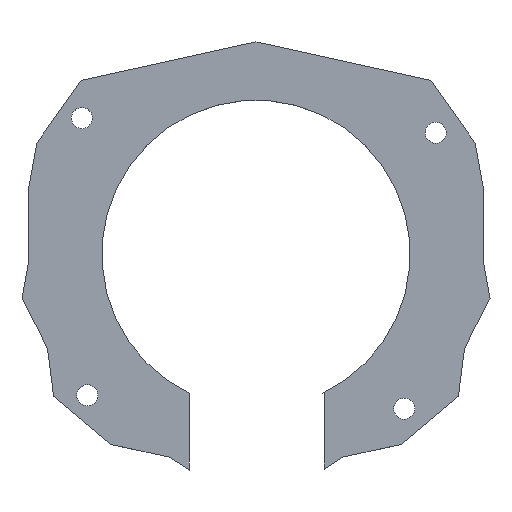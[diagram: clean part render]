
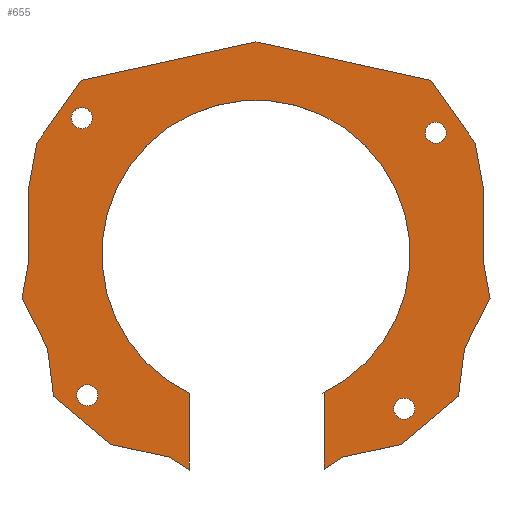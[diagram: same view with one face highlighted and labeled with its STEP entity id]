
A CAD part, top view. The second image highlights one B-rep face of the part: STEP entity #655.
In plain terms, the highlighted planar face has unit normal (0, 0, 1).
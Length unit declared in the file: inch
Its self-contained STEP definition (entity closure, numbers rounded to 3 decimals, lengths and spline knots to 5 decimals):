
#15=FACE_BOUND('',#104,.T.);
#16=FACE_BOUND('',#105,.T.);
#17=FACE_BOUND('',#106,.T.);
#18=FACE_BOUND('',#107,.T.);
#31=CIRCLE('',#678,0.91418);
#33=CIRCLE('',#682,0.0625);
#35=CIRCLE('',#685,0.0625);
#37=CIRCLE('',#688,0.0625);
#39=CIRCLE('',#691,0.0625);
#71=FACE_OUTER_BOUND('',#103,.T.);
#103=EDGE_LOOP('',(#544,#545,#546,#547,#548,#549,#550,#551,#552,#553,#554,
#555,#556,#557,#558,#559,#560,#561,#562,#563,#564,#565,#566,#567));
#104=EDGE_LOOP('',(#568));
#105=EDGE_LOOP('',(#569));
#106=EDGE_LOOP('',(#570));
#107=EDGE_LOOP('',(#571));
#115=LINE('',#891,#193);
#119=LINE('',#900,#197);
#127=LINE('',#915,#205);
#134=LINE('',#954,#212);
#137=LINE('',#960,#215);
#140=LINE('',#966,#218);
#143=LINE('',#972,#221);
#146=LINE('',#978,#224);
#149=LINE('',#984,#227);
#152=LINE('',#990,#230);
#155=LINE('',#996,#233);
#158=LINE('',#1002,#236);
#161=LINE('',#1006,#239);
#162=LINE('',#1009,#240);
#166=LINE('',#1017,#244);
#169=LINE('',#1023,#247);
#172=LINE('',#1029,#250);
#175=LINE('',#1035,#253);
#178=LINE('',#1041,#256);
#181=LINE('',#1047,#259);
#184=LINE('',#1053,#262);
#187=LINE('',#1059,#265);
#190=LINE('',#1063,#268);
#193=VECTOR('',#721,0.3937);
#197=VECTOR('',#727,0.3937);
#205=VECTOR('',#737,0.3937);
#212=VECTOR('',#784,0.3937);
#215=VECTOR('',#789,0.3937);
#218=VECTOR('',#794,0.3937);
#221=VECTOR('',#799,0.3937);
#224=VECTOR('',#804,0.3937);
#227=VECTOR('',#809,0.3937);
#230=VECTOR('',#814,0.3937);
#233=VECTOR('',#819,0.3937);
#236=VECTOR('',#824,0.3937);
#239=VECTOR('',#829,0.3937);
#240=VECTOR('',#832,0.3937);
#244=VECTOR('',#838,0.3937);
#247=VECTOR('',#843,0.3937);
#250=VECTOR('',#848,0.3937);
#253=VECTOR('',#853,0.3937);
#256=VECTOR('',#858,0.3937);
#259=VECTOR('',#863,0.3937);
#262=VECTOR('',#868,0.3937);
#265=VECTOR('',#873,0.3937);
#268=VECTOR('',#878,0.3937);
#271=VERTEX_POINT('',#888);
#272=VERTEX_POINT('',#890);
#275=VERTEX_POINT('',#897);
#276=VERTEX_POINT('',#899);
#282=VERTEX_POINT('',#913);
#283=VERTEX_POINT('',#924);
#285=VERTEX_POINT('',#930);
#287=VERTEX_POINT('',#936);
#289=VERTEX_POINT('',#942);
#293=VERTEX_POINT('',#951);
#294=VERTEX_POINT('',#953);
#296=VERTEX_POINT('',#959);
#298=VERTEX_POINT('',#965);
#300=VERTEX_POINT('',#971);
#302=VERTEX_POINT('',#977);
#304=VERTEX_POINT('',#983);
#306=VERTEX_POINT('',#989);
#308=VERTEX_POINT('',#995);
#310=VERTEX_POINT('',#1001);
#311=VERTEX_POINT('',#1008);
#314=VERTEX_POINT('',#1016);
#316=VERTEX_POINT('',#1022);
#318=VERTEX_POINT('',#1028);
#320=VERTEX_POINT('',#1034);
#322=VERTEX_POINT('',#1040);
#324=VERTEX_POINT('',#1046);
#326=VERTEX_POINT('',#1052);
#328=VERTEX_POINT('',#1058);
#331=EDGE_CURVE('',#272,#271,#115,.T.);
#335=EDGE_CURVE('',#276,#275,#119,.T.);
#343=EDGE_CURVE('',#271,#282,#127,.T.);
#346=EDGE_CURVE('',#275,#272,#31,.T.);
#348=EDGE_CURVE('',#283,#283,#33,.T.);
#351=EDGE_CURVE('',#285,#285,#35,.T.);
#354=EDGE_CURVE('',#287,#287,#37,.T.);
#357=EDGE_CURVE('',#289,#289,#39,.T.);
#362=EDGE_CURVE('',#294,#293,#134,.T.);
#365=EDGE_CURVE('',#296,#294,#137,.T.);
#368=EDGE_CURVE('',#298,#296,#140,.T.);
#371=EDGE_CURVE('',#300,#298,#143,.T.);
#374=EDGE_CURVE('',#302,#300,#146,.T.);
#377=EDGE_CURVE('',#304,#302,#149,.T.);
#380=EDGE_CURVE('',#306,#304,#152,.T.);
#383=EDGE_CURVE('',#308,#306,#155,.T.);
#386=EDGE_CURVE('',#310,#308,#158,.T.);
#389=EDGE_CURVE('',#282,#310,#161,.T.);
#390=EDGE_CURVE('',#311,#276,#162,.T.);
#394=EDGE_CURVE('',#314,#311,#166,.T.);
#397=EDGE_CURVE('',#316,#314,#169,.T.);
#400=EDGE_CURVE('',#318,#316,#172,.T.);
#403=EDGE_CURVE('',#320,#318,#175,.T.);
#406=EDGE_CURVE('',#322,#320,#178,.T.);
#409=EDGE_CURVE('',#324,#322,#181,.T.);
#412=EDGE_CURVE('',#326,#324,#184,.T.);
#415=EDGE_CURVE('',#328,#326,#187,.T.);
#418=EDGE_CURVE('',#293,#328,#190,.T.);
#544=ORIENTED_EDGE('',*,*,#343,.T.);
#545=ORIENTED_EDGE('',*,*,#389,.T.);
#546=ORIENTED_EDGE('',*,*,#386,.T.);
#547=ORIENTED_EDGE('',*,*,#383,.T.);
#548=ORIENTED_EDGE('',*,*,#380,.T.);
#549=ORIENTED_EDGE('',*,*,#377,.T.);
#550=ORIENTED_EDGE('',*,*,#374,.T.);
#551=ORIENTED_EDGE('',*,*,#371,.T.);
#552=ORIENTED_EDGE('',*,*,#368,.T.);
#553=ORIENTED_EDGE('',*,*,#365,.T.);
#554=ORIENTED_EDGE('',*,*,#362,.T.);
#555=ORIENTED_EDGE('',*,*,#418,.T.);
#556=ORIENTED_EDGE('',*,*,#415,.T.);
#557=ORIENTED_EDGE('',*,*,#412,.T.);
#558=ORIENTED_EDGE('',*,*,#409,.T.);
#559=ORIENTED_EDGE('',*,*,#406,.T.);
#560=ORIENTED_EDGE('',*,*,#403,.T.);
#561=ORIENTED_EDGE('',*,*,#400,.T.);
#562=ORIENTED_EDGE('',*,*,#397,.T.);
#563=ORIENTED_EDGE('',*,*,#394,.T.);
#564=ORIENTED_EDGE('',*,*,#390,.T.);
#565=ORIENTED_EDGE('',*,*,#335,.T.);
#566=ORIENTED_EDGE('',*,*,#346,.T.);
#567=ORIENTED_EDGE('',*,*,#331,.T.);
#568=ORIENTED_EDGE('',*,*,#357,.T.);
#569=ORIENTED_EDGE('',*,*,#354,.T.);
#570=ORIENTED_EDGE('',*,*,#351,.T.);
#571=ORIENTED_EDGE('',*,*,#348,.T.);
#623=PLANE('',#713);
#655=ADVANCED_FACE('',(#71,#15,#16,#17,#18),#623,.T.);
#678=AXIS2_PLACEMENT_3D('',#920,#746,#747);
#682=AXIS2_PLACEMENT_3D('',#925,#754,#755);
#685=AXIS2_PLACEMENT_3D('',#931,#761,#762);
#688=AXIS2_PLACEMENT_3D('',#937,#768,#769);
#691=AXIS2_PLACEMENT_3D('',#943,#775,#776);
#713=AXIS2_PLACEMENT_3D('',#1064,#879,#880);
#721=DIRECTION('',(1.,0.,0.));
#727=DIRECTION('',(0.,1.,0.));
#737=DIRECTION('',(0.,-1.,0.));
#746=DIRECTION('center_axis',(0.,0.,-1.));
#747=DIRECTION('ref_axis',(-1.,0.,0.));
#754=DIRECTION('center_axis',(0.,0.,-1.));
#755=DIRECTION('ref_axis',(-1.,0.,0.));
#761=DIRECTION('center_axis',(0.,0.,-1.));
#762=DIRECTION('ref_axis',(-1.,0.,0.));
#768=DIRECTION('center_axis',(0.,0.,-1.));
#769=DIRECTION('ref_axis',(-1.,0.,0.));
#775=DIRECTION('center_axis',(0.,0.,-1.));
#776=DIRECTION('ref_axis',(-1.,0.,0.));
#784=DIRECTION('',(-0.977,0.215,0.));
#789=DIRECTION('',(-0.577,0.816,0.));
#794=DIRECTION('',(-0.175,0.984,0.));
#799=DIRECTION('',(0.,1.,0.));
#804=DIRECTION('',(-0.175,0.984,0.));
#809=DIRECTION('',(0.454,0.891,0.));
#814=DIRECTION('',(0.127,0.992,0.));
#819=DIRECTION('',(0.764,0.646,0.));
#824=DIRECTION('',(0.977,0.213,0.));
#829=DIRECTION('',(0.841,0.541,0.));
#832=DIRECTION('',(0.841,-0.541,0.));
#838=DIRECTION('',(0.977,-0.213,0.));
#843=DIRECTION('',(0.764,-0.646,0.));
#848=DIRECTION('',(0.127,-0.992,0.));
#853=DIRECTION('',(0.454,-0.891,0.));
#858=DIRECTION('',(-0.175,-0.984,0.));
#863=DIRECTION('',(0.,-1.,0.));
#868=DIRECTION('',(-0.175,-0.984,0.));
#873=DIRECTION('',(-0.577,-0.816,0.));
#878=DIRECTION('',(-0.977,-0.215,0.));
#879=DIRECTION('center_axis',(0.,0.,1.));
#880=DIRECTION('ref_axis',(-1.,0.,0.));
#888=CARTESIAN_POINT('',(0.40471,-3.18374,0.225));
#890=CARTESIAN_POINT('',(0.39541,-3.18374,0.225));
#891=CARTESIAN_POINT('',(-0.19765,-3.18374,0.225));
#897=CARTESIAN_POINT('',(-0.39529,-3.18374,0.225));
#899=CARTESIAN_POINT('',(-0.39529,-3.63869,0.225));
#900=CARTESIAN_POINT('',(-0.39529,-3.17188,0.225));
#913=CARTESIAN_POINT('',(0.40471,-3.63263,0.225));
#915=CARTESIAN_POINT('',(0.40471,-2.79187,0.225));
#920=CARTESIAN_POINT('Origin',(0.00006,-2.35947,0.225));
#924=CARTESIAN_POINT('',(-0.93772,-3.19496,0.225));
#925=CARTESIAN_POINT('Origin',(-1.00022,-3.19496,0.225));
#930=CARTESIAN_POINT('',(1.12845,-1.63935,0.225));
#931=CARTESIAN_POINT('Origin',(1.06595,-1.63935,0.225));
#936=CARTESIAN_POINT('',(-0.96963,-1.5516,0.225));
#937=CARTESIAN_POINT('Origin',(-1.03213,-1.5516,0.225));
#942=CARTESIAN_POINT('',(0.94097,-3.27474,0.225));
#943=CARTESIAN_POINT('Origin',(0.87847,-3.27474,0.225));
#951=CARTESIAN_POINT('',(0.,-1.1,0.225));
#953=CARTESIAN_POINT('',(1.03707,-1.32825,0.225));
#954=CARTESIAN_POINT('',(0.,-1.1,0.225));
#959=CARTESIAN_POINT('',(1.3,-1.7,0.225));
#960=CARTESIAN_POINT('',(1.03707,-1.32825,0.225));
#965=CARTESIAN_POINT('',(1.3482,-1.97044,0.225));
#966=CARTESIAN_POINT('',(1.3,-1.7,0.225));
#971=CARTESIAN_POINT('',(1.3482,-2.4,0.225));
#972=CARTESIAN_POINT('',(1.3482,-1.97044,0.225));
#977=CARTESIAN_POINT('',(1.38741,-2.62002,0.225));
#978=CARTESIAN_POINT('',(1.3482,-2.4,0.225));
#983=CARTESIAN_POINT('',(1.23651,-2.91577,0.225));
#984=CARTESIAN_POINT('',(1.38741,-2.62002,0.225));
#989=CARTESIAN_POINT('',(1.2,-3.2,0.225));
#990=CARTESIAN_POINT('',(1.23651,-2.91577,0.225));
#995=CARTESIAN_POINT('',(0.86157,-3.48616,0.225));
#996=CARTESIAN_POINT('',(1.2,-3.2,0.225));
#1001=CARTESIAN_POINT('',(0.51455,-3.56195,0.225));
#1002=CARTESIAN_POINT('',(0.86157,-3.48616,0.225));
#1006=CARTESIAN_POINT('',(0.51455,-3.56195,0.225));
#1008=CARTESIAN_POINT('',(-0.51455,-3.56195,0.225));
#1009=CARTESIAN_POINT('',(-0.51455,-3.56195,0.225));
#1016=CARTESIAN_POINT('',(-0.86157,-3.48616,0.225));
#1017=CARTESIAN_POINT('',(-0.86157,-3.48616,0.225));
#1022=CARTESIAN_POINT('',(-1.2,-3.2,0.225));
#1023=CARTESIAN_POINT('',(-1.2,-3.2,0.225));
#1028=CARTESIAN_POINT('',(-1.23651,-2.91577,0.225));
#1029=CARTESIAN_POINT('',(-1.23651,-2.91577,0.225));
#1034=CARTESIAN_POINT('',(-1.38741,-2.62002,0.225));
#1035=CARTESIAN_POINT('',(-1.38741,-2.62002,0.225));
#1040=CARTESIAN_POINT('',(-1.3482,-2.4,0.225));
#1041=CARTESIAN_POINT('',(-1.3482,-2.4,0.225));
#1046=CARTESIAN_POINT('',(-1.3482,-1.97044,0.225));
#1047=CARTESIAN_POINT('',(-1.3482,-1.97044,0.225));
#1052=CARTESIAN_POINT('',(-1.3,-1.7,0.225));
#1053=CARTESIAN_POINT('',(-1.3,-1.7,0.225));
#1058=CARTESIAN_POINT('',(-1.03707,-1.32825,0.225));
#1059=CARTESIAN_POINT('',(-1.03707,-1.32825,0.225));
#1063=CARTESIAN_POINT('',(0.,-1.1,0.225));
#1064=CARTESIAN_POINT('Origin',(0.,-2.4,
0.225));
